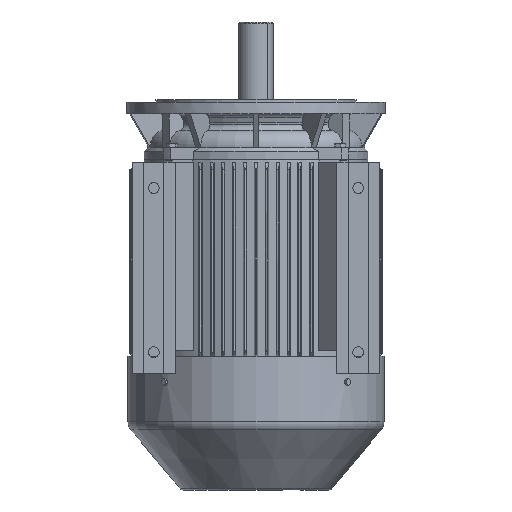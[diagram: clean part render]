
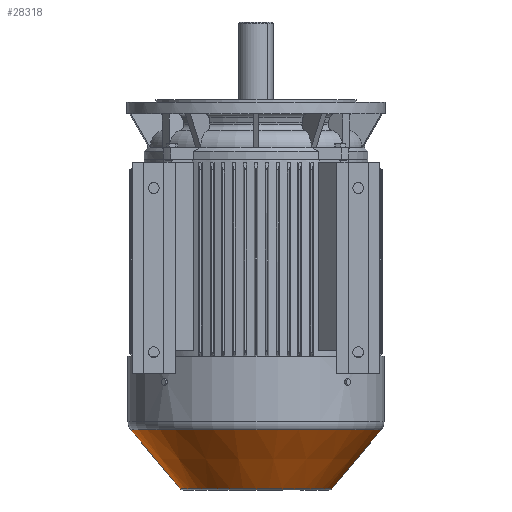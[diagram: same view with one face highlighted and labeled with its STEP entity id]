
A CAD part, front view. The second image highlights one B-rep face of the part: STEP entity #28318.
In plain terms, the highlighted conical face has half-angle 40 degrees and reference radius 132.173 mm.
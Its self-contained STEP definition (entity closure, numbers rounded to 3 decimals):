
#5880 = AXIS2_PLACEMENT_3D ( 'NONE', #88289, #88290, #88291 ) ;
#5882 = AXIS2_PLACEMENT_3D ( 'NONE', #88292, #88293, #88294 ) ;
#17084 = EDGE_CURVE ( 'NONE', #73584, #56193, #58715, .T. ) ;
#17085 = EDGE_CURVE ( 'NONE', #73580, #73583, #58719, .T. ) ;
#17164 = EDGE_CURVE ( 'NONE', #73583, #56193, #58797, .T. ) ;
#17165 = EDGE_CURVE ( 'NONE', #73580, #73584, #58798, .T. ) ;
#28318 = ADVANCED_FACE ( 'NONE', ( #51533 ), #51541, .T. ) ;
#30432 = ORIENTED_EDGE ( 'NONE', *, *, #17084, .F. ) ;
#30433 = ORIENTED_EDGE ( 'NONE', *, *, #17164, .T. ) ;
#30434 = ORIENTED_EDGE ( 'NONE', *, *, #17085, .T. ) ;
#30435 = ORIENTED_EDGE ( 'NONE', *, *, #17165, .F. ) ;
#44228 = DIRECTION ( 'NONE',  ( 0., -1., 0. ) ) ;
#44230 = DIRECTION ( 'NONE',  ( -1., 0., 0. ) ) ;
#44231 = AXIS2_PLACEMENT_3D ( 'NONE', #44236, #44230, #44228 ) ;
#44236 = CARTESIAN_POINT ( 'NONE',  ( 230.41, 0., 0. ) ) ;
#45240 = CARTESIAN_POINT ( 'NONE',  ( 230.41, 132.173, 0. ) ) ;
#45243 = CARTESIAN_POINT ( 'NONE',  ( 230.41, -132.173, 0. ) ) ;
#45244 = CARTESIAN_POINT ( 'NONE',  ( 128.301, 217.853, 0. ) ) ;
#51533 = FACE_OUTER_BOUND ( 'NONE', #68324, .T. ) ;
#51541 = CONICAL_SURFACE ( 'NONE', #44231, 132.173, 0.698 ) ;
#53167 = CARTESIAN_POINT ( 'NONE',  ( 128.301, -217.853, 0. ) ) ;
#53953 = CARTESIAN_POINT ( 'NONE',  ( 230.41, -132.173, 0. ) ) ;
#53960 = DIRECTION ( 'NONE',  ( -0.766, -0.643, 0. ) ) ;
#53967 = CARTESIAN_POINT ( 'NONE',  ( 230.41, 132.173, 0. ) ) ;
#53968 = DIRECTION ( 'NONE',  ( -0.766, 0.643, 0. ) ) ;
#56193 = VERTEX_POINT ( 'NONE', #53167 ) ;
#58715 = CIRCLE ( 'NONE', #5880, 217.853 ) ;
#58719 = CIRCLE ( 'NONE', #5882, 132.173 ) ;
#58797 = LINE ( 'NONE', #53953, #58799 ) ;
#58798 = LINE ( 'NONE', #53967, #58801 ) ;
#58799 = VECTOR ( 'NONE', #53960, 1000. ) ;
#58801 = VECTOR ( 'NONE', #53968, 1000. ) ;
#68324 = EDGE_LOOP ( 'NONE', ( #30435, #30434, #30433, #30432 ) ) ;
#73580 = VERTEX_POINT ( 'NONE', #45240 ) ;
#73583 = VERTEX_POINT ( 'NONE', #45243 ) ;
#73584 = VERTEX_POINT ( 'NONE', #45244 ) ;
#88289 = CARTESIAN_POINT ( 'NONE',  ( 128.301, 0., 0. ) ) ;
#88290 = DIRECTION ( 'NONE',  ( -1., 0., 0. ) ) ;
#88291 = DIRECTION ( 'NONE',  ( 0., -1., 0. ) ) ;
#88292 = CARTESIAN_POINT ( 'NONE',  ( 230.41, 0., 0. ) ) ;
#88293 = DIRECTION ( 'NONE',  ( -1., 0., 0. ) ) ;
#88294 = DIRECTION ( 'NONE',  ( 0., -1., 0. ) ) ;
